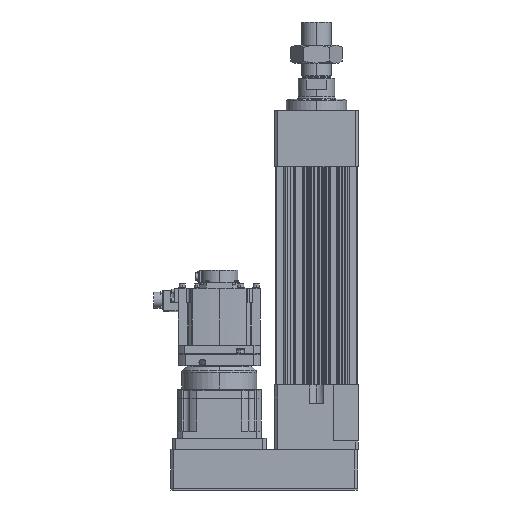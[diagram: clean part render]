
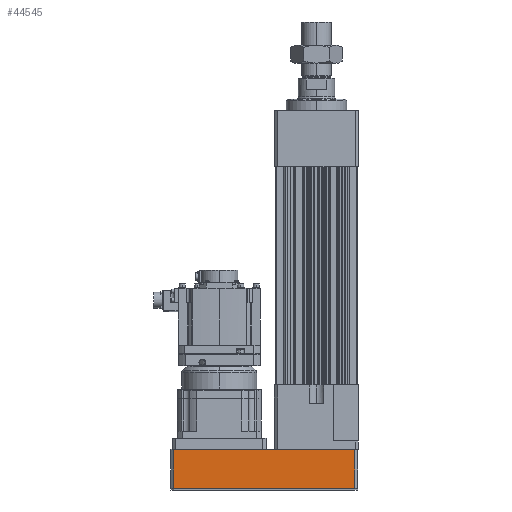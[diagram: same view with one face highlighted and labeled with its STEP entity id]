
A CAD part, left-side view. The second image highlights one B-rep face of the part: STEP entity #44545.
In plain terms, the highlighted planar face has unit normal (-1, 0, 0).
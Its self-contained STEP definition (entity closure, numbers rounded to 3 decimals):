
#1361 = LINE ( 'NONE', #44087, #38364 ) ;
#2112 = LINE ( 'NONE', #31231, #33912 ) ;
#2905 = VERTEX_POINT ( 'NONE', #44016 ) ;
#7550 = DIRECTION ( 'NONE',  ( 1., 0., 0. ) ) ;
#10107 = EDGE_CURVE ( 'NONE', #32600, #48459, #1361, .T. ) ;
#10335 = EDGE_CURVE ( 'NONE', #2905, #14504, #14288, .T. ) ;
#12246 = PLANE ( 'NONE',  #41867 ) ;
#13905 = FACE_OUTER_BOUND ( 'NONE', #35128, .T. ) ;
#14288 = LINE ( 'NONE', #38232, #53194 ) ;
#14504 = VERTEX_POINT ( 'NONE', #37219 ) ;
#17863 = DIRECTION ( 'NONE',  ( 0., 0., 1. ) ) ;
#18882 = ORIENTED_EDGE ( 'NONE', *, *, #10335, .T. ) ;
#19439 = EDGE_CURVE ( 'NONE', #32600, #2905, #2112, .T. ) ;
#20445 = CARTESIAN_POINT ( 'NONE',  ( -88., -82., -138.5 ) ) ;
#21510 = CARTESIAN_POINT ( 'NONE',  ( -88., 306., -138.5 ) ) ;
#23637 = DIRECTION ( 'NONE',  ( 0., 0., 1. ) ) ;
#25167 = DIRECTION ( 'NONE',  ( 0., 1., 0. ) ) ;
#31054 = DIRECTION ( 'NONE',  ( 0., -1., 0. ) ) ;
#31231 = CARTESIAN_POINT ( 'NONE',  ( -88., -82., -221.5 ) ) ;
#32600 = VERTEX_POINT ( 'NONE', #45250 ) ;
#33912 = VECTOR ( 'NONE', #31054, 1000. ) ;
#35128 = EDGE_LOOP ( 'NONE', ( #40383, #40772, #18882, #47838 ) ) ;
#36760 = DIRECTION ( 'NONE',  ( 0., 0., -1. ) ) ;
#37219 = CARTESIAN_POINT ( 'NONE',  ( -88., -82., -138.5 ) ) ;
#38232 = CARTESIAN_POINT ( 'NONE',  ( -88., -82., -222. ) ) ;
#38364 = VECTOR ( 'NONE', #23637, 1000. ) ;
#40383 = ORIENTED_EDGE ( 'NONE', *, *, #10107, .F. ) ;
#40565 = CARTESIAN_POINT ( 'NONE',  ( -88., -82., -222. ) ) ;
#40772 = ORIENTED_EDGE ( 'NONE', *, *, #19439, .T. ) ;
#41867 = AXIS2_PLACEMENT_3D ( 'NONE', #40565, #7550, #36760 ) ;
#42324 = EDGE_CURVE ( 'NONE', #14504, #48459, #44609, .T. ) ;
#44016 = CARTESIAN_POINT ( 'NONE',  ( -88., -82., -221.5 ) ) ;
#44087 = CARTESIAN_POINT ( 'NONE',  ( -88., 306., -222. ) ) ;
#44545 = ADVANCED_FACE ( 'NONE', ( #13905 ), #12246, .F. ) ;
#44609 = LINE ( 'NONE', #20445, #49787 ) ;
#45250 = CARTESIAN_POINT ( 'NONE',  ( -88., 306., -221.5 ) ) ;
#47838 = ORIENTED_EDGE ( 'NONE', *, *, #42324, .T. ) ;
#48459 = VERTEX_POINT ( 'NONE', #21510 ) ;
#49787 = VECTOR ( 'NONE', #25167, 1000. ) ;
#53194 = VECTOR ( 'NONE', #17863, 1000. ) ;
